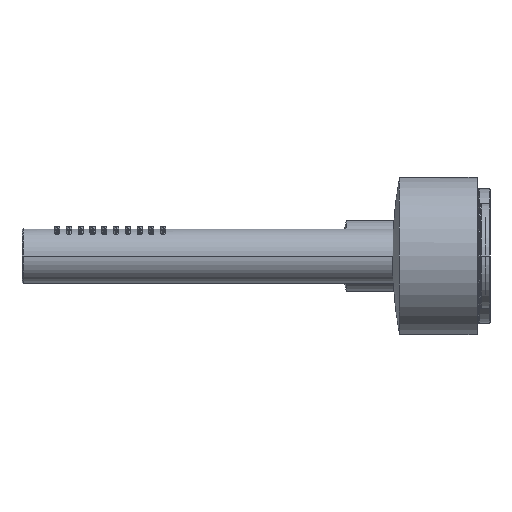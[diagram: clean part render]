
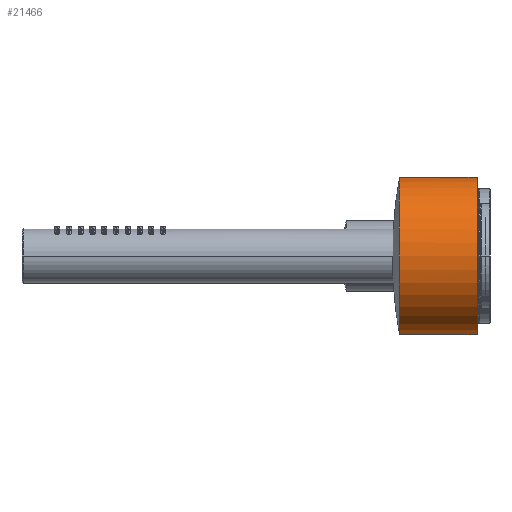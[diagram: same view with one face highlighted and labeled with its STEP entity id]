
A CAD part, left-side view. The second image highlights one B-rep face of the part: STEP entity #21466.
In plain terms, the highlighted cylindrical face has radius 33.5 mm (diameter 67 mm), a partial arc.
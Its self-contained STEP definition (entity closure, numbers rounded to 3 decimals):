
#18775=CARTESIAN_POINT('',(-250.,5.5,0.));
#18776=DIRECTION('',(0.,-1.,0.));
#18777=DIRECTION('',(0.328,0.,0.945));
#18778=AXIS2_PLACEMENT_3D('',#18775,#18776,#18777);
#18780=DIRECTION('',(0.,1.,0.));
#18781=VECTOR('',#18780,33.);
#18782=CARTESIAN_POINT('',(-218.355,5.5,10.994));
#18783=LINE('',#18782,#18781);
#18784=DIRECTION('',(0.,-1.,0.));
#18785=VECTOR('',#18784,33.);
#18786=CARTESIAN_POINT('',(-239.006,38.5,31.645));
#18787=LINE('',#18786,#18785);
#18793=CARTESIAN_POINT('',(-250.,38.5,0.));
#18794=DIRECTION('',(0.,-1.,0.));
#18795=DIRECTION('',(0.328,0.,0.945));
#18796=AXIS2_PLACEMENT_3D('',#18793,#18794,#18795);
#18808=CARTESIAN_POINT('',(-250.,38.5,0.));
#18809=DIRECTION('',(0.,-1.,0.));
#18810=DIRECTION('',(0.,0.,-1.));
#18811=AXIS2_PLACEMENT_3D('',#18808,#18809,#18810);
#18813=CARTESIAN_POINT('',(-250.,38.5,0.));
#18814=DIRECTION('',(0.,1.,0.));
#18815=DIRECTION('',(0.,0.,-1.));
#18816=AXIS2_PLACEMENT_3D('',#18813,#18814,#18815);
#18994=CARTESIAN_POINT('',(-250.,38.5,-33.5));
#18996=VERTEX_POINT('',#18994);
#18998=CARTESIAN_POINT('',(-250.,38.5,33.5));
#18999=VERTEX_POINT('',#18998);
#19000=CARTESIAN_POINT('',(-239.006,5.5,31.645));
#19001=CARTESIAN_POINT('',(-218.355,5.5,10.994));
#19002=VERTEX_POINT('',#19000);
#19003=VERTEX_POINT('',#19001);
#19004=CARTESIAN_POINT('',(-239.006,38.5,31.645));
#19005=VERTEX_POINT('',#19004);
#19006=CARTESIAN_POINT('',(-218.355,38.5,10.994));
#19007=VERTEX_POINT('',#19006);
#21450=CARTESIAN_POINT('',(-250.,3.7,0.));
#21451=DIRECTION('',(0.,1.,0.));
#21452=DIRECTION('',(0.,0.,-1.));
#21453=AXIS2_PLACEMENT_3D('',#21450,#21451,#21452);
#21454=CYLINDRICAL_SURFACE('',#21453,33.5);
#21455=ORIENTED_EDGE('',*,*,#21421,.T.);
#21456=ORIENTED_EDGE('',*,*,#21445,.T.);
#21458=ORIENTED_EDGE('',*,*,#21457,.F.);
#21460=ORIENTED_EDGE('',*,*,#21459,.T.);
#21462=ORIENTED_EDGE('',*,*,#21461,.F.);
#21463=ORIENTED_EDGE('',*,*,#21441,.T.);
#21464=EDGE_LOOP('',(#21455,#21456,#21458,#21460,#21462,#21463));
#21465=FACE_OUTER_BOUND('',#21464,.F.);
#21466=ADVANCED_FACE('',(#21465),#21454,.T.);
#18779=CIRCLE('',#18778,33.5);
#18797=CIRCLE('',#18796,33.5);
#18812=CIRCLE('',#18811,33.5);
#18817=CIRCLE('',#18816,33.5);
#21421=EDGE_CURVE('',#19002,#19003,#18779,.T.);
#21441=EDGE_CURVE('',#19005,#19002,#18787,.T.);
#21445=EDGE_CURVE('',#19003,#19007,#18783,.T.);
#21457=EDGE_CURVE('',#18996,#19007,#18812,.T.);
#21459=EDGE_CURVE('',#18996,#18999,#18817,.T.);
#21461=EDGE_CURVE('',#19005,#18999,#18797,.T.);
